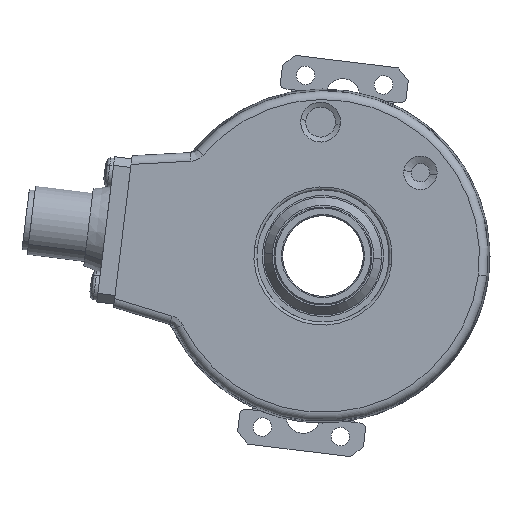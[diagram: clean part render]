
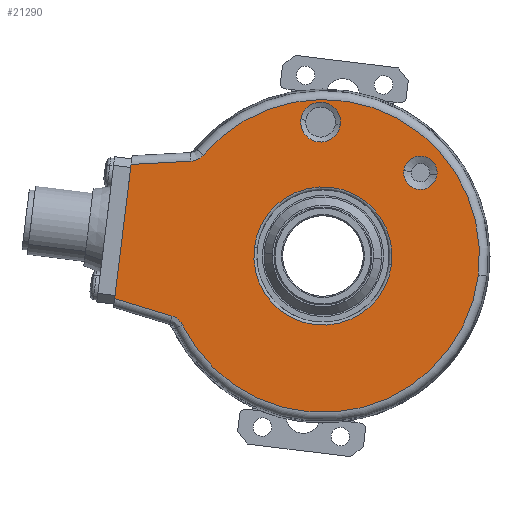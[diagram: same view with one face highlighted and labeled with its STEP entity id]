
A CAD part, left-side view. The second image highlights one B-rep face of the part: STEP entity #21290.
In plain terms, the highlighted planar face has unit normal (-1, 0, 0).
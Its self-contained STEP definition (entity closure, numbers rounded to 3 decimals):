
#3 = EDGE_CURVE ( 'NONE', #15, #24101, #7638, .T. ) ;
#6 = EDGE_CURVE ( 'NONE', #57, #33, #88, .T. ) ;
#15 = VERTEX_POINT ( 'NONE', #79 ) ;
#25 = ORIENTED_EDGE ( 'NONE', *, *, #6, .T. ) ;
#30 = ORIENTED_EDGE ( 'NONE', *, *, #3435, .T. ) ;
#33 = VERTEX_POINT ( 'NONE', #181 ) ;
#35 = ORIENTED_EDGE ( 'NONE', *, *, #3468, .T. ) ;
#37 = ORIENTED_EDGE ( 'NONE', *, *, #3403, .F. ) ;
#57 = VERTEX_POINT ( 'NONE', #439 ) ;
#79 = CARTESIAN_POINT ( 'NONE',  ( -19., -11.911, -1.462 ) ) ;
#80 = DIRECTION ( 'NONE',  ( 0., -0.993, -0.122 ) ) ;
#81 = DIRECTION ( 'NONE',  ( -1., 0., 0. ) ) ;
#82 = CARTESIAN_POINT ( 'NONE',  ( -19., 0., 0. ) ) ;
#83 = AXIS2_PLACEMENT_3D ( 'NONE', #82, #81, #80 ) ;
#88 = CIRCLE ( 'NONE', #83, 27.173 ) ;
#181 = CARTESIAN_POINT ( 'NONE',  ( -19., 20.777, 17.512 ) ) ;
#439 = CARTESIAN_POINT ( 'NONE',  ( -19., -26.97, -3.312 ) ) ;
#1081 = DIRECTION ( 'NONE',  ( 0., -0.993, -0.122 ) ) ;
#1082 = DIRECTION ( 'NONE',  ( 1., 0., 0. ) ) ;
#1083 = CARTESIAN_POINT ( 'NONE',  ( -19., 0., 0. ) ) ;
#1084 = AXIS2_PLACEMENT_3D ( 'NONE', #1083, #1082, #1081 ) ;
#1089 = CIRCLE ( 'NONE', #1084, 12. ) ;
#1252 = CARTESIAN_POINT ( 'NONE',  ( -19., 20.777, 17.512 ) ) ;
#1253 = CARTESIAN_POINT ( 'NONE',  ( -19., 20.91, 17.355 ) ) ;
#1254 = CARTESIAN_POINT ( 'NONE',  ( -19., 21.056, 17.213 ) ) ;
#1255 = CARTESIAN_POINT ( 'NONE',  ( -19., 21.376, 16.962 ) ) ;
#1256 = CARTESIAN_POINT ( 'NONE',  ( -19., 21.552, 16.851 ) ) ;
#1257 = CARTESIAN_POINT ( 'NONE',  ( -19., 21.917, 16.669 ) ) ;
#1258 = CARTESIAN_POINT ( 'NONE',  ( -19., 22.108, 16.597 ) ) ;
#1259 = CARTESIAN_POINT ( 'NONE',  ( -19., 22.503, 16.493 ) ) ;
#1260 = CARTESIAN_POINT ( 'NONE',  ( -19., 22.708, 16.461 ) ) ;
#1261 = CARTESIAN_POINT ( 'NONE',  ( -19., 22.914, 16.45 ) ) ;
#1266 = B_SPLINE_CURVE_WITH_KNOTS ( 'NONE', 3,
 ( #1261, #1260, #1259, #1258, #1257, #1256, #1255, #1254, #1253, #1252 ),
 .UNSPECIFIED., .F., .F.,
 ( 4, 2, 2, 2, 4 ),
 ( 0., 0.001, 0.001, 0.002, 0.002 ),
 .UNSPECIFIED. ) ;
#1302 = CARTESIAN_POINT ( 'NONE',  ( -19., 33.31, 15.905 ) ) ;
#1499 = CARTESIAN_POINT ( 'NONE',  ( -19., 26.213, -10.418 ) ) ;
#1500 = CARTESIAN_POINT ( 'NONE',  ( -19., 26.016, -10.478 ) ) ;
#1501 = CARTESIAN_POINT ( 'NONE',  ( -19., 25.471, -10.753 ) ) ;
#1502 = CARTESIAN_POINT ( 'NONE',  ( -19., 25.3, -10.87 ) ) ;
#1504 = CARTESIAN_POINT ( 'NONE',  ( -19., 25.828, -10.557 ) ) ;
#1595 = DIRECTION ( 'NONE',  ( 0., -0.122, 0.993 ) ) ;
#1596 = VECTOR ( 'NONE', #1595, 1000. ) ;
#1597 = CARTESIAN_POINT ( 'NONE',  ( -19., 36.354, -8.886 ) ) ;
#1598 = LINE ( 'NONE', #1597, #1596 ) ;
#1680 = DIRECTION ( 'NONE',  ( 0., 0.999, -0.052 ) ) ;
#1681 = VECTOR ( 'NONE', #1680, 1000. ) ;
#1682 = CARTESIAN_POINT ( 'NONE',  ( -19., 33.046, 15.919 ) ) ;
#1683 = LINE ( 'NONE', #1682, #1681 ) ;
#1684 = CARTESIAN_POINT ( 'NONE',  ( -19., 36.168, -7.374 ) ) ;
#1708 = DIRECTION ( 'NONE',  ( 0., -0.956, -0.292 ) ) ;
#1709 = VECTOR ( 'NONE', #1708, 1000. ) ;
#1710 = CARTESIAN_POINT ( 'NONE',  ( -19., 25.556, -10.618 ) ) ;
#1711 = LINE ( 'NONE', #1710, #1709 ) ;
#1717 = CARTESIAN_POINT ( 'NONE',  ( -19., 24.989, -11.135 ) ) ;
#1718 = CARTESIAN_POINT ( 'NONE',  ( -19., 24.848, -11.282 ) ) ;
#1719 = CARTESIAN_POINT ( 'NONE',  ( -19., 24.597, -11.605 ) ) ;
#1720 = CARTESIAN_POINT ( 'NONE',  ( -19., 24.487, -11.781 ) ) ;
#1721 = CARTESIAN_POINT ( 'NONE',  ( -19., 24.396, -11.966 ) ) ;
#1724 = B_SPLINE_CURVE_WITH_KNOTS ( 'NONE', 3,
 ( #1721, #1720, #1719, #1718, #1717, #1502, #1501, #1504, #1500, #1499 ),
 .UNSPECIFIED., .F., .F.,
 ( 4, 2, 2, 2, 4 ),
 ( 0., 0.001, 0.001, 0.002, 0.002 ),
 .UNSPECIFIED. ) ;
#1726 = CARTESIAN_POINT ( 'NONE',  ( -19., 24.396, -11.966 ) ) ;
#1727 = CARTESIAN_POINT ( 'NONE',  ( -19., 26.213, -10.418 ) ) ;
#1942 = AXIS2_PLACEMENT_3D ( 'NONE', #1996, #1995, #1994 ) ;
#1943 = CIRCLE ( 'NONE', #1942, 27.173 ) ;
#1994 = DIRECTION ( 'NONE',  ( 0., -0.993, -0.122 ) ) ;
#1995 = DIRECTION ( 'NONE',  ( -1., 0., 0. ) ) ;
#1996 = CARTESIAN_POINT ( 'NONE',  ( -19., 0., 0. ) ) ;
#2159 = CARTESIAN_POINT ( 'NONE',  ( -19., 22.914, 16.45 ) ) ;
#3231 = EDGE_CURVE ( 'NONE', #24101, #15, #1089, .T. ) ;
#3281 = EDGE_CURVE ( 'NONE', #3524, #33, #1266, .T. ) ;
#3306 = VERTEX_POINT ( 'NONE', #1302 ) ;
#3403 = EDGE_CURVE ( 'NONE', #3423, #3306, #1598, .T. ) ;
#3423 = VERTEX_POINT ( 'NONE', #1684 ) ;
#3425 = EDGE_CURVE ( 'NONE', #3524, #3306, #1683, .T. ) ;
#3435 = EDGE_CURVE ( 'NONE', #3423, #3450, #1711, .T. ) ;
#3450 = VERTEX_POINT ( 'NONE', #1727 ) ;
#3451 = VERTEX_POINT ( 'NONE', #1726 ) ;
#3453 = EDGE_CURVE ( 'NONE', #3451, #3450, #1724, .T. ) ;
#3468 = EDGE_CURVE ( 'NONE', #3451, #57, #1943, .T. ) ;
#3524 = VERTEX_POINT ( 'NONE', #2159 ) ;
#7634 = DIRECTION ( 'NONE',  ( 0., -0.993, -0.122 ) ) ;
#7635 = DIRECTION ( 'NONE',  ( 1., 0., 0. ) ) ;
#7636 = CARTESIAN_POINT ( 'NONE',  ( -19., 0., 0. ) ) ;
#7637 = AXIS2_PLACEMENT_3D ( 'NONE', #7636, #7635, #7634 ) ;
#7638 = CIRCLE ( 'NONE', #7637, 12. ) ;
#18837 = CIRCLE ( 'NONE', #18887, 3.466 ) ;
#18864 = AXIS2_PLACEMENT_3D ( 'NONE', #18918, #18917, #18916 ) ;
#18865 = PLANE ( 'NONE',  #18864 ) ;
#18880 = FACE_OUTER_BOUND ( 'NONE', #20474, .T. ) ;
#18881 = FACE_BOUND ( 'NONE', #20478, .T. ) ;
#18882 = FACE_BOUND ( 'NONE', #21650, .T. ) ;
#18883 = FACE_BOUND ( 'NONE', #20937, .T. ) ;
#18884 = DIRECTION ( 'NONE',  ( 0., -0.993, -0.122 ) ) ;
#18885 = DIRECTION ( 'NONE',  ( 1., 0., 0. ) ) ;
#18886 = CARTESIAN_POINT ( 'NONE',  ( -19., 0.406, 23.246 ) ) ;
#18887 = AXIS2_PLACEMENT_3D ( 'NONE', #18886, #18885, #18884 ) ;
#18916 = DIRECTION ( 'NONE',  ( 0., -0.993, -0.122 ) ) ;
#18917 = DIRECTION ( 'NONE',  ( 1., 0., 0. ) ) ;
#18918 = CARTESIAN_POINT ( 'NONE',  ( -19., 0., 0. ) ) ;
#18951 = CIRCLE ( 'NONE', #18956, 2.899 ) ;
#18956 = AXIS2_PLACEMENT_3D ( 'NONE', #19006, #19005, #19004 ) ;
#19004 = DIRECTION ( 'NONE',  ( 0., -0.993, -0.122 ) ) ;
#19005 = DIRECTION ( 'NONE',  ( 1., 0., 0. ) ) ;
#19006 = CARTESIAN_POINT ( 'NONE',  ( -19., -16.919, 14.45 ) ) ;
#19052 = CARTESIAN_POINT ( 'NONE',  ( -19., -14.042, 14.804 ) ) ;
#19075 = CARTESIAN_POINT ( 'NONE',  ( -19., -19.796, 14.097 ) ) ;
#19081 = DIRECTION ( 'NONE',  ( 0., -0.993, -0.122 ) ) ;
#19082 = DIRECTION ( 'NONE',  ( 1., 0., 0. ) ) ;
#19083 = CARTESIAN_POINT ( 'NONE',  ( -19., -16.919, 14.45 ) ) ;
#19084 = AXIS2_PLACEMENT_3D ( 'NONE', #19083, #19082, #19081 ) ;
#19089 = CIRCLE ( 'NONE', #19084, 2.899 ) ;
#19109 = CARTESIAN_POINT ( 'NONE',  ( -19., 3.846, 23.669 ) ) ;
#19157 = CARTESIAN_POINT ( 'NONE',  ( -19., 11.911, 1.462 ) ) ;
#19182 = AXIS2_PLACEMENT_3D ( 'NONE', #19240, #19239, #19238 ) ;
#19183 = CIRCLE ( 'NONE', #19182, 3.466 ) ;
#19238 = DIRECTION ( 'NONE',  ( 0., -0.993, -0.122 ) ) ;
#19239 = DIRECTION ( 'NONE',  ( 1., 0., 0. ) ) ;
#19240 = CARTESIAN_POINT ( 'NONE',  ( -19., 0.406, 23.246 ) ) ;
#19242 = CARTESIAN_POINT ( 'NONE',  ( -19., -3.034, 22.824 ) ) ;
#20474 = EDGE_LOOP ( 'NONE', ( #20477, #21230, #37, #30, #23462, #35, #25 ) ) ;
#20475 = ORIENTED_EDGE ( 'NONE', *, *, #21192, .T. ) ;
#20476 = ORIENTED_EDGE ( 'NONE', *, *, #3231, .T. ) ;
#20477 = ORIENTED_EDGE ( 'NONE', *, *, #3281, .F. ) ;
#20478 = EDGE_LOOP ( 'NONE', ( #20479, #20476 ) ) ;
#20479 = ORIENTED_EDGE ( 'NONE', *, *, #3, .T. ) ;
#20567 = ORIENTED_EDGE ( 'NONE', *, *, #24274, .T. ) ;
#20937 = EDGE_LOOP ( 'NONE', ( #21260, #21738 ) ) ;
#21192 = EDGE_CURVE ( 'NONE', #24285, #23425, #18837, .T. ) ;
#21230 = ORIENTED_EDGE ( 'NONE', *, *, #3425, .T. ) ;
#21260 = ORIENTED_EDGE ( 'NONE', *, *, #22847, .T. ) ;
#21290 = ADVANCED_FACE ( 'NONE', ( #18883, #18882, #18881, #18880 ), #18865, .F. ) ;
#21650 = EDGE_LOOP ( 'NONE', ( #20567, #20475 ) ) ;
#21657 = EDGE_CURVE ( 'NONE', #22886, #22504, #18951, .T. ) ;
#21738 = ORIENTED_EDGE ( 'NONE', *, *, #21657, .T. ) ;
#22504 = VERTEX_POINT ( 'NONE', #19052 ) ;
#22847 = EDGE_CURVE ( 'NONE', #22504, #22886, #19089, .T. ) ;
#22886 = VERTEX_POINT ( 'NONE', #19075 ) ;
#23425 = VERTEX_POINT ( 'NONE', #19109 ) ;
#23462 = ORIENTED_EDGE ( 'NONE', *, *, #3453, .F. ) ;
#24101 = VERTEX_POINT ( 'NONE', #19157 ) ;
#24274 = EDGE_CURVE ( 'NONE', #23425, #24285, #19183, .T. ) ;
#24285 = VERTEX_POINT ( 'NONE', #19242 ) ;
